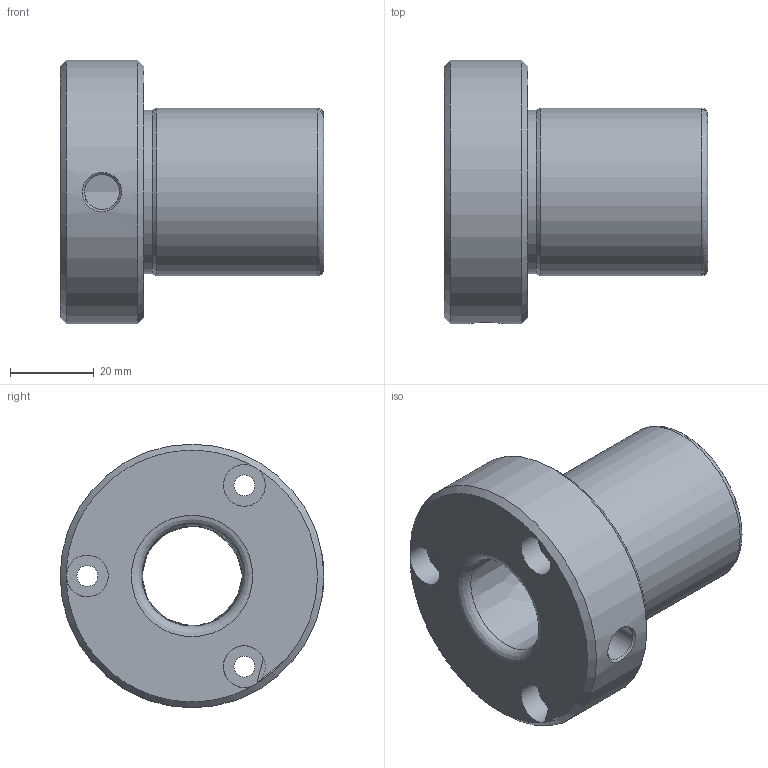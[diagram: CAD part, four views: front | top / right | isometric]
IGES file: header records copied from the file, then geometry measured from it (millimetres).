
Global section: file name: B524.ipt; native system: Autodesk Inventor 2021; preprocessor: unknown; author: SM; date: 20211221.123809; units: millimetre
Bounding box: 63 x 63 x 63 mm (x, y, z)
Volume: 83814.4 mm3; surface area: 20442.7 mm2
Topology: 1 solids, 1 shells, 24 faces, 67 edges, 45 vertices
Faces by surface type: revolution 11, plane 6, cylinder 3, cone 3, bspline 1
Full cylindrical faces by diameter (mm): 39 x1, 40 x1, 63 x1
